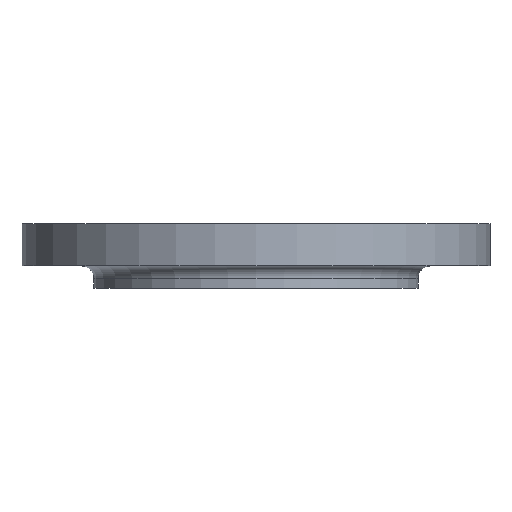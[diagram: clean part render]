
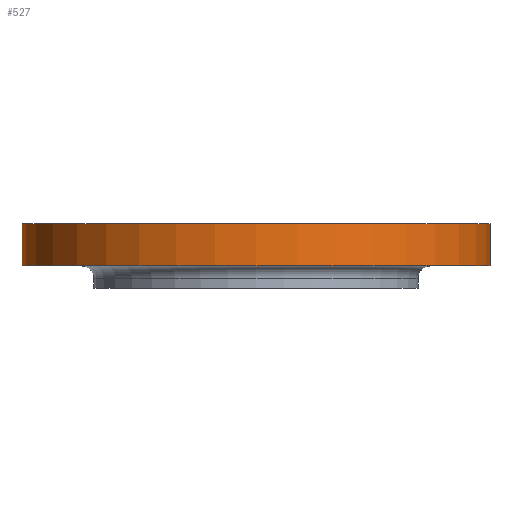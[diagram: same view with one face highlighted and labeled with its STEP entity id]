
A CAD part, front view. The second image highlights one B-rep face of the part: STEP entity #527.
In plain terms, the highlighted cylindrical face has radius 187.5 mm (diameter 375 mm), a partial arc.
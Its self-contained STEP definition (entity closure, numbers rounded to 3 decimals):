
#89 = AXIS2_PLACEMENT_3D ( 'NONE', #339, #366, #336 ) ;
#103 = EDGE_CURVE ( 'NONE', #442, #612, #675, .T. ) ;
#139 = DIRECTION ( 'NONE',  ( 0., 0., 1. ) ) ;
#227 = CARTESIAN_POINT ( 'NONE',  ( -187.5, 0., -34. ) ) ;
#228 = CARTESIAN_POINT ( 'NONE',  ( 187.5, 0., 0. ) ) ;
#240 = DIRECTION ( 'NONE',  ( 1., 0., 0. ) ) ;
#241 = DIRECTION ( 'NONE',  ( 0., 0., 1. ) ) ;
#242 = CARTESIAN_POINT ( 'NONE',  ( 0., 0., -98. ) ) ;
#243 = CYLINDRICAL_SURFACE ( 'NONE', #769, 187.5 ) ;
#246 = FACE_OUTER_BOUND ( 'NONE', #629, .T. ) ;
#256 = CARTESIAN_POINT ( 'NONE',  ( -187.5, 0., 0. ) ) ;
#315 = CARTESIAN_POINT ( 'NONE',  ( -187.5, 0., -98. ) ) ;
#336 = DIRECTION ( 'NONE',  ( 1., 0., 0. ) ) ;
#339 = CARTESIAN_POINT ( 'NONE',  ( 0., 0., 0. ) ) ;
#340 = VECTOR ( 'NONE', #524, 1000. ) ;
#344 = CARTESIAN_POINT ( 'NONE',  ( 187.5, 0., -34. ) ) ;
#366 = DIRECTION ( 'NONE',  ( 0., 0., 1. ) ) ;
#411 = AXIS2_PLACEMENT_3D ( 'NONE', #979, #139, #666 ) ;
#442 = VERTEX_POINT ( 'NONE', #256 ) ;
#524 = DIRECTION ( 'NONE',  ( 0., 0., 1. ) ) ;
#527 = ADVANCED_FACE ( 'NONE', ( #246 ), #243, .T. ) ;
#586 = VECTOR ( 'NONE', #750, 1000. ) ;
#589 = CIRCLE ( 'NONE', #411, 187.5 ) ;
#612 = VERTEX_POINT ( 'NONE', #228 ) ;
#617 = VERTEX_POINT ( 'NONE', #227 ) ;
#629 = EDGE_LOOP ( 'NONE', ( #1193, #1194, #1196, #1197 ) ) ;
#666 = DIRECTION ( 'NONE',  ( 1., 0., 0. ) ) ;
#675 = CIRCLE ( 'NONE', #89, 187.5 ) ;
#750 = DIRECTION ( 'NONE',  ( 0., 0., 1. ) ) ;
#769 = AXIS2_PLACEMENT_3D ( 'NONE', #242, #241, #240 ) ;
#829 = EDGE_CURVE ( 'NONE', #1200, #612, #925, .T. ) ;
#847 = EDGE_CURVE ( 'NONE', #617, #442, #1027, .T. ) ;
#848 = EDGE_CURVE ( 'NONE', #617, #1200, #589, .T. ) ;
#925 = LINE ( 'NONE', #1198, #340 ) ;
#979 = CARTESIAN_POINT ( 'NONE',  ( 0., 0., -34. ) ) ;
#1027 = LINE ( 'NONE', #315, #586 ) ;
#1193 = ORIENTED_EDGE ( 'NONE', *, *, #847, .F. ) ;
#1194 = ORIENTED_EDGE ( 'NONE', *, *, #848, .T. ) ;
#1196 = ORIENTED_EDGE ( 'NONE', *, *, #829, .T. ) ;
#1197 = ORIENTED_EDGE ( 'NONE', *, *, #103, .F. ) ;
#1198 = CARTESIAN_POINT ( 'NONE',  ( 187.5, 0., -98. ) ) ;
#1200 = VERTEX_POINT ( 'NONE', #344 ) ;
